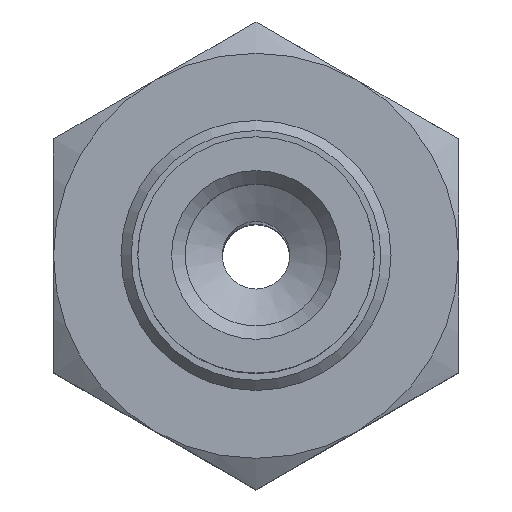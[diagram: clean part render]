
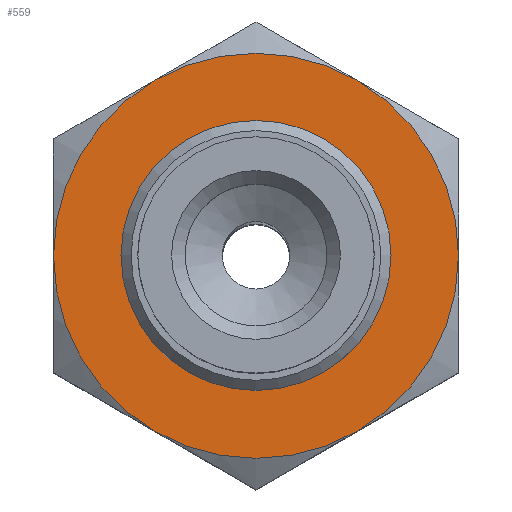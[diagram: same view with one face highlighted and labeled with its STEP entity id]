
A CAD part, top view. The second image highlights one B-rep face of the part: STEP entity #559.
In plain terms, the highlighted planar face has unit normal (0, 0, 1).
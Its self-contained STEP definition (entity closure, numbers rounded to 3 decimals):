
#559=ADVANCED_FACE('',(#798,#799),#800,.T.);
#798=FACE_BOUND('',#1168,.T.);
#799=FACE_OUTER_BOUND('',#1169,.T.);
#800=PLANE('',#1170);
#1168=EDGE_LOOP('',(#1699));
#1169=EDGE_LOOP('',(#1700,#1701,#1702,#1703,#1704,#1705));
#1170=AXIS2_PLACEMENT_3D('',#1706,#1707,#1708);
#1699=ORIENTED_EDGE('',*,*,#2383,.T.);
#1700=ORIENTED_EDGE('',*,*,#2384,.T.);
#1701=ORIENTED_EDGE('',*,*,#2385,.T.);
#1702=ORIENTED_EDGE('',*,*,#2349,.T.);
#1703=ORIENTED_EDGE('',*,*,#2371,.T.);
#1704=ORIENTED_EDGE('',*,*,#2386,.T.);
#1705=ORIENTED_EDGE('',*,*,#2381,.T.);
#1706=CARTESIAN_POINT('',(-6.928,-6.0,3.0));
#1707=DIRECTION('',(0.0,0.0,1.0));
#1708=DIRECTION('',(1.0,0.0,0.0));
#2349=EDGE_CURVE('',#2623,#2614,#2624,.T.);
#2371=EDGE_CURVE('',#2614,#2660,#2662,.T.);
#2381=EDGE_CURVE('',#2638,#2629,#2675,.T.);
#2383=EDGE_CURVE('',#2677,#2677,#2678,.T.);
#2384=EDGE_CURVE('',#2629,#2656,#2679,.T.);
#2385=EDGE_CURVE('',#2656,#2623,#2680,.T.);
#2386=EDGE_CURVE('',#2660,#2638,#2681,.T.);
#2614=VERTEX_POINT('',#3021);
#2623=VERTEX_POINT('',#3043);
#2624=CIRCLE('',#3044,6.0);
#2629=VERTEX_POINT('',#3054);
#2638=VERTEX_POINT('',#3076);
#2656=VERTEX_POINT('',#3120);
#2660=VERTEX_POINT('',#3132);
#2662=CIRCLE('',#3138,6.0);
#2675=CIRCLE('',#3167,6.0);
#2677=VERTEX_POINT('',#3169);
#2678=CIRCLE('',#3170,3.925);
#2679=CIRCLE('',#3171,6.0);
#2680=CIRCLE('',#3172,6.0);
#2681=CIRCLE('',#3173,6.0);
#3021=CARTESIAN_POINT('',(-5.196,3.0,3.0));
#3043=CARTESIAN_POINT('',(0.,6.0,3.0));
#3044=AXIS2_PLACEMENT_3D('',#3678,#3679,#3680);
#3054=CARTESIAN_POINT('',(5.196,-3.0,3.0));
#3076=CARTESIAN_POINT('',(0.,-6.0,3.0));
#3120=CARTESIAN_POINT('',(5.196,3.0,3.0));
#3132=CARTESIAN_POINT('',(-5.196,-3.0,3.0));
#3138=AXIS2_PLACEMENT_3D('',#3691,#3692,#3693);
#3167=AXIS2_PLACEMENT_3D('',#3706,#3707,#3708);
#3169=CARTESIAN_POINT('',(3.925,0.0,3.0));
#3170=AXIS2_PLACEMENT_3D('',#3712,#3713,#3714);
#3171=AXIS2_PLACEMENT_3D('',#3715,#3716,#3717);
#3172=AXIS2_PLACEMENT_3D('',#3718,#3719,#3720);
#3173=AXIS2_PLACEMENT_3D('',#3721,#3722,#3723);
#3678=CARTESIAN_POINT('',(0.,0.0,3.0));
#3679=DIRECTION('',(0.0,0.,1.0));
#3680=DIRECTION('',(0.0,-1.0,0.));
#3691=CARTESIAN_POINT('',(0.,0.0,3.0));
#3692=DIRECTION('',(0.0,0.,1.0));
#3693=DIRECTION('',(0.0,-1.0,0.));
#3706=CARTESIAN_POINT('',(0.,0.0,3.0));
#3707=DIRECTION('',(0.0,0.,1.0));
#3708=DIRECTION('',(0.0,-1.0,0.));
#3712=CARTESIAN_POINT('',(0.0,0.0,3.0));
#3713=DIRECTION('',(0.0,0.0,-1.0));
#3714=DIRECTION('',(1.0,0.0,0.0));
#3715=CARTESIAN_POINT('',(0.,0.0,3.0));
#3716=DIRECTION('',(0.0,0.,1.0));
#3717=DIRECTION('',(0.0,-1.0,0.));
#3718=CARTESIAN_POINT('',(0.,0.0,3.0));
#3719=DIRECTION('',(0.0,0.,1.0));
#3720=DIRECTION('',(0.0,-1.0,0.));
#3721=CARTESIAN_POINT('',(0.,0.0,3.0));
#3722=DIRECTION('',(0.0,0.,1.0));
#3723=DIRECTION('',(0.0,-1.0,0.));
